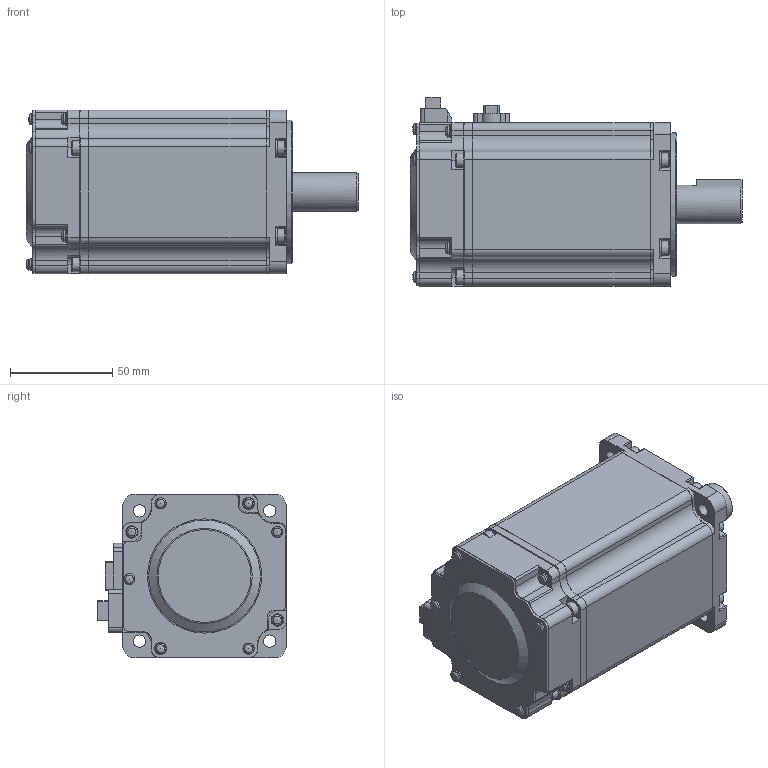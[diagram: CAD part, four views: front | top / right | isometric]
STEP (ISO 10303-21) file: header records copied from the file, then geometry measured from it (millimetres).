
FILE_DESCRIPTION( ( 'STEP AP214' ), ' ' );
FILE_NAME( 'p:/temp/worker_261/1028_4324/app_47_12016081613212179944775260eae72_000000_00_00_000000/format_0/MSMF092L1U1.stp', '2016-08-16T11:21:23', ( '' ), ( '' ), ' ', 'PARTsolutions', ' ' );
FILE_SCHEMA( ( 'AUTOMOTIVE_DESIGN { 1 0 10303 214 1 1 1 1 }' ) );
Length unit declared in the file: millimetre
Products named in the file (2): MSMF092L1U1; _MSMF09NoWith key and end of tap_b_connec
Assembly tree (1 placements, depth 2):
  MSMF092L1U1
    _MSMF09NoWith key and end of tap_b_connec
Bounding box: 162.2 x 92.3 x 80 mm (x, y, z)
Volume: 729275.1 mm3; surface area: 59133.5 mm2
Topology: 1 solids, 1 shells, 762 faces, 2009 edges, 1329 vertices
Faces by surface type: plane 468, cylinder 248, cone 25, torus 11, sphere 8, bspline 2
Full cylindrical faces by diameter (mm): 2 x4, 2.3 x4, 4.134 x1, 5.5 x2, 5.9 x4, 6 x10, 7 x12, 8 x12, 19 x1, 29.4 x1, 31.132 x1, 70 x1
Entity records: 29092 total; most frequent: CARTESIAN_POINT 4052, DIRECTION 3958, ORIENTED_EDGE 3768, EDGE_CURVE 1884, LINE 1328, VECTOR 1328, AXIS2_PLACEMENT_3D 1315, VERTEX_POINT 1313
